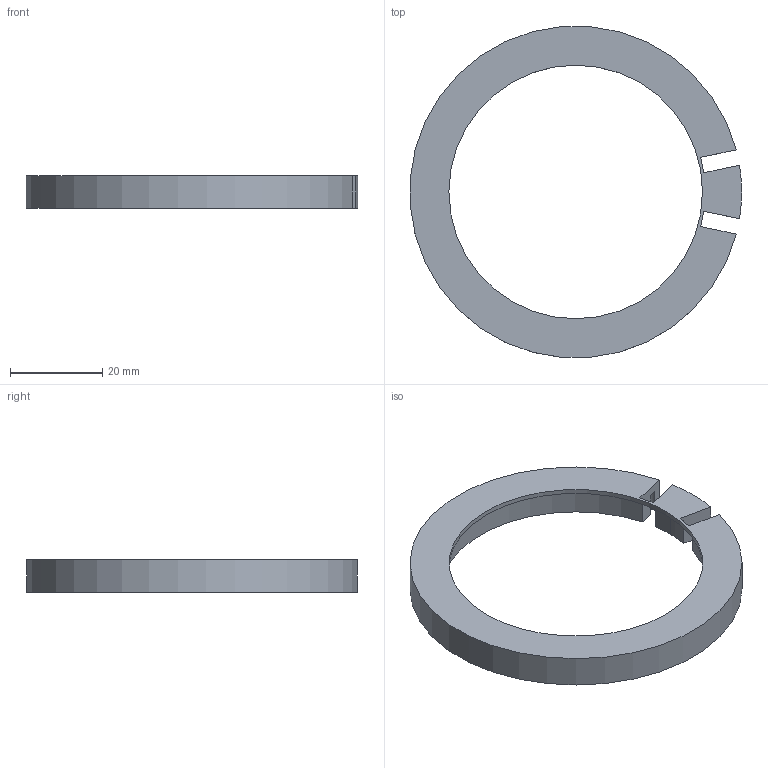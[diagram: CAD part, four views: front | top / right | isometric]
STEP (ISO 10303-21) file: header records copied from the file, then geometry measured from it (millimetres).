
FILE_DESCRIPTION(('FreeCAD Model'),'2;1');
FILE_NAME('Open CASCADE Shape Model','2026-10-30T15:57:34',('FreeCAD'),( 'FreeCAD'),'Open CASCADE STEP processor 7.8','FreeCAD','Unknown');
FILE_SCHEMA(('AUTOMOTIVE_DESIGN { 1 0 10303 214 1 1 1 1 }'));
Length unit declared in the file: millimetre
Products named in the file (1): Open CASCADE STEP translator 7.8 8
Bounding box: 71.86 x 71.74 x 7 mm (x, y, z)
Volume: 9635.5 mm3; surface area: 6714.5 mm2
Topology: 1 solids, 1 shells, 51 faces, 105 edges, 70 vertices
Faces by surface type: plane 26, cylinder 25
Full cylindrical faces by diameter (mm): 2 x14, 55 x1
Entity records: 1383 total; most frequent: DIRECTION 259, CARTESIAN_POINT 227, ORIENTED_EDGE 210, EDGE_CURVE 105, AXIS2_PLACEMENT_3D 102, VERTEX_POINT 70, FACE_BOUND 67, EDGE_LOOP 67
